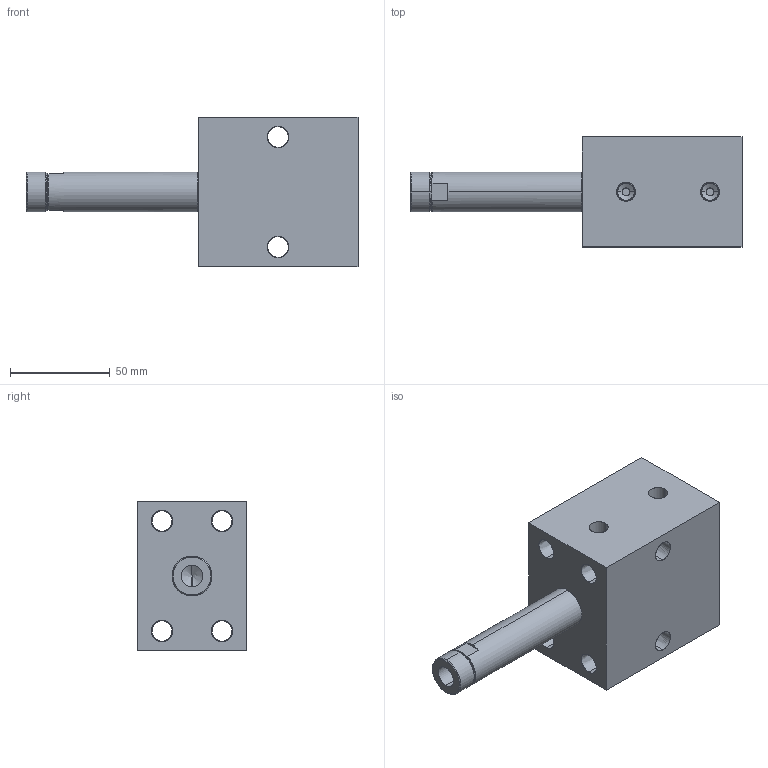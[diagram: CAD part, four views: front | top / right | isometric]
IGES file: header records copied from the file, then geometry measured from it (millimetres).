
Start section: SolidWorks IGES file using analytic representation for surfaces
Global section: file name: C:\Documents and Settings\rajib\Desktop\Rajib\BLOCK CYLINDER HYDRAULIC\0301-0306\IGS 0301-0306\0306.IGS; native system: SolidWorks 2007; preprocessor: SolidWorks 2007; author: rajib; date: 110121.100607; units: millimetre
Bounding box: 166 x 55 x 75 mm (x, y, z)
Surface area: 48381.6 mm2 (no closed solid volume)
Topology: 0 solids, 0 shells, 80 faces, 1752 edges, 1750 vertices
Faces by surface type: revolution 58, bspline 22
